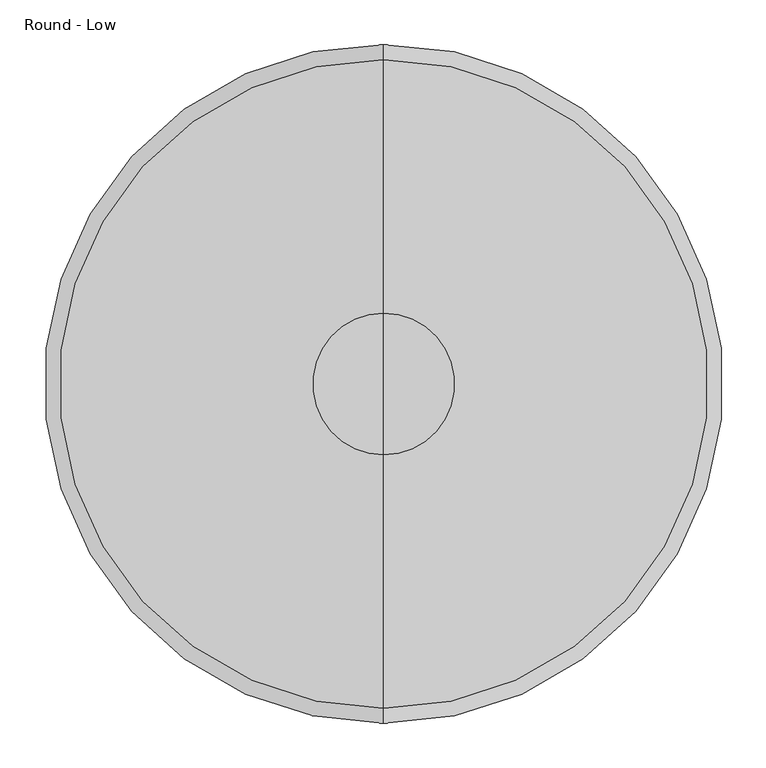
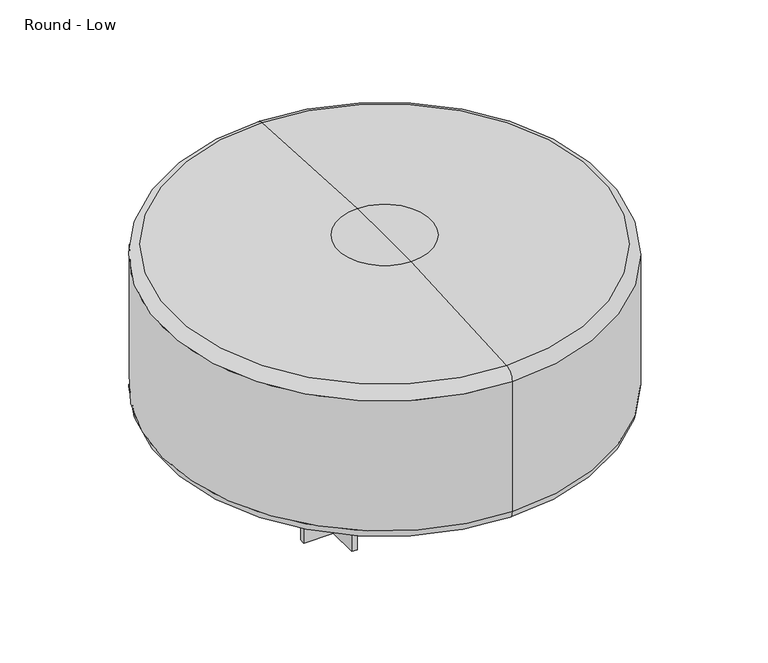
"""IFC4 building model written with IfcOpenShell, lengths in millimetres: furniture geometry, Steelcase Coalesse - Evaneau - Seating - Ottoman : Round - Low."""

from ifc_helpers import new_model, si_unit, point, frame, origin, origin_with_axes, place, context, project, spatial, polyline, circle_curve, ellipse_curve, trimmed, outline, extrude, source, transform, mapped, element, save
from ifc_brep_helpers import plane_surface, cylinder_surface, revolved_surface, advanced_brep


def round_low_1aa9a5bd(model_context):
    return source(origin(), model_context, "Body", "SolidModel", [
        advanced_brep(
        [(-282.917922, 512.994047, 350.2282919), (-282.917922, 672.0244421, 350.2282919), (-282.917922, 592.5092446, 350.2282919), (-282.917922, 228.3539502, 333.7828066), (-282.917922, 956.6645389, 333.7828066), (-282.917922, 211.4979081, 314.8595657), (-282.917922, 973.5205811, 314.8595657), (-282.917922, 211.4979081, 78.5722435), (-282.917922, 973.5205811, 78.5722435), (-282.917922, 230.5479081, 59.5222435), (-282.917922, 954.4705811, 59.5222435), (-282.917922, 592.5092446, 59.5222435)],
        [
            (0, 1, circle_curve(frame((-282.917922, 592.5092446, 350.2282919), z_axis=(0.0, 0.0, 1.0), x_axis=(0.0, 1.0, 0.0)), 79.5151975)),
            (1, 2),
            (2, 0),
            (1, 0, circle_curve(frame((-282.917922, 592.5092446, 350.2282919), z_axis=(0.0, 0.0, 1.0), x_axis=(0.0, 1.0, 0.0)), 79.5151975)),
            (3, 4, circle_curve(frame((-282.917922, 592.5092446, 333.7828066), z_axis=(0.0, 0.0, 1.0), x_axis=(0.0, 1.0, 0.0)), 364.1552944)),
            (4, 1, circle_curve(frame((-282.917922, 672.0244421, -2121.2840235), z_axis=(1.0, 0.0, 0.0), x_axis=(0.0, -1.0, 0.0)), 2471.5123154)),
            (0, 3, circle_curve(frame((-282.917922, 512.994047, -2121.2840235), z_axis=(1.0, 0.0, 0.0), x_axis=(0.0, 1.0, 0.0)), 2471.5123154)),
            (4, 3, circle_curve(frame((-282.917922, 592.5092446, 333.7828066), z_axis=(0.0, 0.0, 1.0), x_axis=(0.0, 1.0, 0.0)), 364.1552944)),
            (5, 6, circle_curve(frame((-282.917922, 592.5092446, 314.8595657), z_axis=(0.0, 0.0, 1.0), x_axis=(0.0, 1.0, 0.0)), 381.0113365)),
            (6, 4, circle_curve(frame((-282.917922, 954.4705811, 314.8595657), z_axis=(1.0, 0.0, 0.0), x_axis=(0.0, -1.0, 0.0)), 19.05)),
            (3, 5, circle_curve(frame((-282.917922, 230.5479081, 314.8595657), z_axis=(1.0, 0.0, 0.0), x_axis=(0.0, 1.0, 0.0)), 19.05)),
            (6, 5, circle_curve(frame((-282.917922, 592.5092446, 314.8595657), z_axis=(0.0, 0.0, 1.0), x_axis=(0.0, 1.0, 0.0)), 381.0113365)),
            (7, 8, circle_curve(frame((-282.917922, 592.5092446, 78.5722435), z_axis=(0.0, 0.0, 1.0), x_axis=(0.0, 1.0, 0.0)), 381.0113365)),
            (8, 6),
            (5, 7),
            (8, 7, circle_curve(frame((-282.917922, 592.5092446, 78.5722435), z_axis=(0.0, 0.0, 1.0), x_axis=(0.0, 1.0, 0.0)), 381.0113365)),
            (9, 10, circle_curve(frame((-282.917922, 592.5092446, 59.5222435), z_axis=(0.0, 0.0, 1.0), x_axis=(0.0, 1.0, 0.0)), 361.9613365)),
            (10, 8, circle_curve(frame((-282.917922, 954.4705811, 78.5722435), z_axis=(1.0, 0.0, 0.0), x_axis=(0.0, -1.0, 0.0)), 19.05)),
            (7, 9, circle_curve(frame((-282.917922, 230.5479081, 78.5722435), z_axis=(1.0, 0.0, 0.0), x_axis=(0.0, 1.0, 0.0)), 19.05)),
            (10, 9, circle_curve(frame((-282.917922, 592.5092446, 59.5222435), z_axis=(0.0, 0.0, 1.0), x_axis=(0.0, 1.0, 0.0)), 361.9613365)),
            (11, 10),
            (9, 11),
        ],
        [
            plane_surface(frame((-282.917922, 592.5092446, 350.2282919), z_axis=(0.0, 0.0, 1.0), x_axis=(0.0, 1.0, 0.0))),
            revolved_surface(trimmed(ellipse_curve(frame((-282.917922, 672.0244421, -2121.2840235), z_axis=(-1.0, 0.0, 0.0), x_axis=(0.0, -1.0, 0.0)), 2471.5123154, 2471.5123154), [point((-282.917922, 672.0244421, 350.2282919))], [point((-282.917922, 956.6645389, 333.7828066))], True, "CARTESIAN"), (-282.917922, 592.5092446, 59.5222435), (0.0, 0.0, -1.0)),
            revolved_surface(trimmed(ellipse_curve(frame((-282.917922, 954.4705811, 314.8595657), z_axis=(-1.0, 0.0, 0.0), x_axis=(0.0, -1.0, 0.0)), 19.05, 19.05), [point((-282.917922, 956.6645389, 333.7828066))], [point((-282.917922, 973.5205811, 314.8595657))], True, "CARTESIAN"), (-282.917922, 592.5092446, 59.5222435), (0.0, 0.0, -1.0)),
            cylinder_surface(frame((-282.917922, 592.5092446, 59.5222435), z_axis=(0.0, 0.0, -1.0), x_axis=(0.0, 1.0, 0.0)), 381.0113365),
            revolved_surface(trimmed(ellipse_curve(frame((-282.917922, 954.4705811, 78.5722435), z_axis=(-1.0, 0.0, 0.0), x_axis=(0.0, -1.0, 0.0)), 19.05, 19.05), [point((-282.917922, 973.5205811, 78.5722435))], [point((-282.917922, 954.4705811, 59.5222435))], True, "CARTESIAN"), (-282.917922, 592.5092446, 59.5222435), (0.0, 0.0, -1.0)),
            plane_surface(frame((-282.917922, 592.5092446, 59.5222435), z_axis=(0.0, 0.0, -1.0), x_axis=(0.0, 1.0, 0.0))),
        ],
        [
            (0, [[1, 2, 3]]),
            (0, [[4, -3, -2]]),
            (1, [[5, 6, -1, 7]]),
            (1, [[8, -7, -4, -6]]),
            (2, [[9, 10, -5, 11]]),
            (2, [[12, -11, -8, -10]]),
            (3, [[13, 14, -9, 15]]),
            (3, [[16, -15, -12, -14]]),
            (4, [[17, 18, -13, 19]]),
            (4, [[20, -19, -16, -18]]),
            (5, [[21, -17, 22]]),
            (5, [[-22, -20, -21]]),
        ],
    ),
        extrude(outline(polyline([(-476.9603815, 786.3240132), (-540.4603573, 786.3240616), (-540.4603573, 795.8487225), (-486.4853815, 795.8487225), (-486.4853815, 846.8845728), (-476.9603815, 846.8845728), (-476.9603815, 786.3240132)])), origin_with_axes(), (0.0, 0.0, 1.0), 59.6281901),
        extrude(outline(polyline([(-476.9603331, 401.9007241), (-476.9603331, 338.4007483), (-486.4850182, 338.4007483), (-486.4850182, 392.3757241), (-537.2850182, 392.3757241), (-537.2850182, 401.9007241), (-476.9603331, 401.9007241)])), origin_with_axes(), (0.0, 0.0, 1.0), 59.6281901),
        extrude(outline(polyline([(-86.1862688, 786.3240152), (-86.1862688, 849.8241101), (-76.6615837, 849.8241101), (-76.6615837, 795.8487225), (-25.8615837, 795.8487225), (-25.8615837, 786.3240613), (-86.1862688, 786.3240152)])), origin_with_axes(), (0.0, 0.0, 1.0), 59.6281901),
        extrude(outline(polyline([(-86.1862325, 401.9007241), (-22.6862688, 401.9007241), (-22.6862688, 392.3757241), (-76.6612446, 392.3757241), (-76.6612446, 341.5760874), (-86.1862567, 341.5760896), (-86.1862325, 401.9007241)])), origin_with_axes(), (0.0, 0.0, 1.0), 59.6281901),
    ])


if __name__ == "__main__":
    model = new_model("IFC4")
    model_context = context("Model", 3, world=origin())
    ifc_project = project(units=[si_unit("LENGTHUNIT", "METRE", prefix="MILLI")], contexts=[model_context])
    site = spatial("IfcSite", under=ifc_project)
    building = spatial("IfcBuilding", under=site)
    placement = place(None, origin())
    round_low_shape = round_low_1aa9a5bd(model_context)
    element("IfcFurniture", 1, ObjectType="Steelcase Coalesse - Evaneau - Seating - Ottoman : Round - Low", at=placement, inside=building, context=model_context, shape_type="MappedRepresentation", body=[
        mapped(round_low_shape, transform((0.0, 0.0, 0.0), x_axis=(1.0, 0.0, 0.0), y_axis=(0.0, 1.0, 0.0), z_axis=(0.0, 0.0, 1.0))),
    ])
    save(model, "model.ifc")
